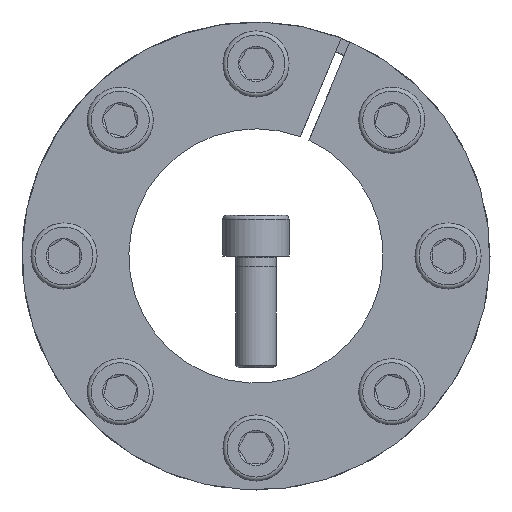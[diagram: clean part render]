
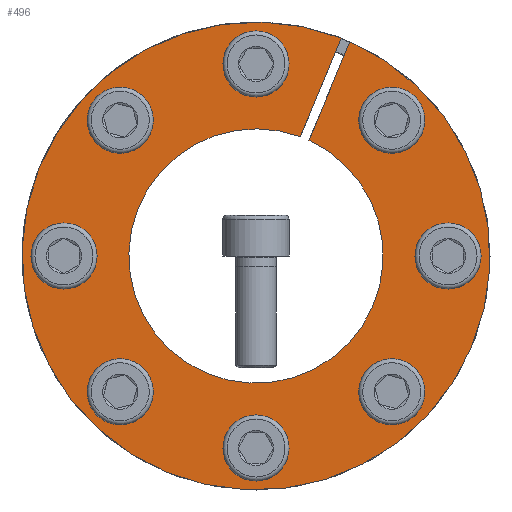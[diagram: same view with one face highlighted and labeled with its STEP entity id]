
A CAD part, front view. The second image highlights one B-rep face of the part: STEP entity #496.
In plain terms, the highlighted planar face has unit normal (0, -1, 0).
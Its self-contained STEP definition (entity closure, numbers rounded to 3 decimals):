
#496 = ADVANCED_FACE( '', ( #896, #897, #898, #899, #900, #901, #902, #903, #904 ), #905, .F. );
#896 = FACE_BOUND( '', #1468, .T. );
#897 = FACE_BOUND( '', #1469, .T. );
#898 = FACE_BOUND( '', #1470, .T. );
#899 = FACE_BOUND( '', #1471, .T. );
#900 = FACE_BOUND( '', #1472, .T. );
#901 = FACE_BOUND( '', #1473, .T. );
#902 = FACE_BOUND( '', #1474, .T. );
#903 = FACE_BOUND( '', #1475, .T. );
#904 = FACE_OUTER_BOUND( '', #1476, .T. );
#905 = PLANE( '', #1477 );
#1468 = EDGE_LOOP( '', ( #2149 ) );
#1469 = EDGE_LOOP( '', ( #2150 ) );
#1470 = EDGE_LOOP( '', ( #2151 ) );
#1471 = EDGE_LOOP( '', ( #2152 ) );
#1472 = EDGE_LOOP( '', ( #2153 ) );
#1473 = EDGE_LOOP( '', ( #2154 ) );
#1474 = EDGE_LOOP( '', ( #2155 ) );
#1475 = EDGE_LOOP( '', ( #2156 ) );
#1476 = EDGE_LOOP( '', ( #2157, #2158, #2159, #2160 ) );
#1477 = AXIS2_PLACEMENT_3D( '', #2161, #2162, #2163 );
#2149 = ORIENTED_EDGE( '', *, *, #3435, .T. );
#2150 = ORIENTED_EDGE( '', *, *, #3436, .T. );
#2151 = ORIENTED_EDGE( '', *, *, #3437, .T. );
#2152 = ORIENTED_EDGE( '', *, *, #3438, .T. );
#2153 = ORIENTED_EDGE( '', *, *, #3439, .T. );
#2154 = ORIENTED_EDGE( '', *, *, #3440, .T. );
#2155 = ORIENTED_EDGE( '', *, *, #3441, .T. );
#2156 = ORIENTED_EDGE( '', *, *, #3424, .T. );
#2157 = ORIENTED_EDGE( '', *, *, #3419, .T. );
#2158 = ORIENTED_EDGE( '', *, *, #3425, .T. );
#2159 = ORIENTED_EDGE( '', *, *, #3396, .T. );
#2160 = ORIENTED_EDGE( '', *, *, #3387, .F. );
#2161 = CARTESIAN_POINT( '', ( 0., 0., 46. ) );
#2162 = DIRECTION( '', ( 0., 1., 0. ) );
#2163 = DIRECTION( '', ( 0., 0., 1. ) );
#3387 = EDGE_CURVE( '', #3758, #3754, #3760, .T. );
#3396 = EDGE_CURVE( '', #3777, #3754, #3778, .T. );
#3419 = EDGE_CURVE( '', #3758, #3813, #3815, .T. );
#3424 = EDGE_CURVE( '', #3821, #3821, #3822, .T. );
#3425 = EDGE_CURVE( '', #3813, #3777, #3823, .T. );
#3435 = EDGE_CURVE( '', #3841, #3841, #3842, .T. );
#3436 = EDGE_CURVE( '', #3843, #3843, #3844, .T. );
#3437 = EDGE_CURVE( '', #3845, #3845, #3846, .T. );
#3438 = EDGE_CURVE( '', #3847, #3847, #3848, .T. );
#3439 = EDGE_CURVE( '', #3849, #3849, #3850, .T. );
#3440 = EDGE_CURVE( '', #3851, #3851, #3852, .T. );
#3441 = EDGE_CURVE( '', #3853, #3853, #3854, .T. );
#3754 = VERTEX_POINT( '', #4267 );
#3758 = VERTEX_POINT( '', #4272 );
#3760 = CIRCLE( '', #4275, 25. );
#3777 = VERTEX_POINT( '', #4300 );
#3778 = LINE( '', #4301, #4302 );
#3813 = VERTEX_POINT( '', #4366 );
#3815 = LINE( '', #4369, #4370 );
#3821 = VERTEX_POINT( '', #4376 );
#3822 = CIRCLE( '', #4377, 4. );
#3823 = CIRCLE( '', #4378, 46. );
#3841 = VERTEX_POINT( '', #4396 );
#3842 = CIRCLE( '', #4397, 4. );
#3843 = VERTEX_POINT( '', #4398 );
#3844 = CIRCLE( '', #4399, 4. );
#3845 = VERTEX_POINT( '', #4400 );
#3846 = CIRCLE( '', #4401, 4. );
#3847 = VERTEX_POINT( '', #4402 );
#3848 = CIRCLE( '', #4403, 4. );
#3849 = VERTEX_POINT( '', #4404 );
#3850 = CIRCLE( '', #4405, 4. );
#3851 = VERTEX_POINT( '', #4406 );
#3852 = CIRCLE( '', #4407, 4. );
#3853 = VERTEX_POINT( '', #4408 );
#3854 = CIRCLE( '', #4409, 4. );
#4267 = CARTESIAN_POINT( '', ( 10.418, 0., 22.726 ) );
#4272 = CARTESIAN_POINT( '', ( 8.703, 0., 23.436 ) );
#4275 = AXIS2_PLACEMENT_3D( '', #5232, #5233, #5234 );
#4300 = CARTESIAN_POINT( '', ( 18.458, 0., 42.134 ) );
#4301 = CARTESIAN_POINT( '', ( 18.461, 0., 42.143 ) );
#4302 = VECTOR( '', #5249, 1000. );
#4366 = CARTESIAN_POINT( '', ( 16.742, 0., 42.845 ) );
#4369 = CARTESIAN_POINT( '', ( 8.703, 0., 23.436 ) );
#4370 = VECTOR( '', #5274, 1000. );
#4376 = CARTESIAN_POINT( '', ( -23.865, 0., 29.522 ) );
#4377 = AXIS2_PLACEMENT_3D( '', #5287, #5288, #5289 );
#4378 = AXIS2_PLACEMENT_3D( '', #5290, #5291, #5292 );
#4396 = CARTESIAN_POINT( '', ( 4., 0., 37.75 ) );
#4397 = AXIS2_PLACEMENT_3D( '', #5320, #5321, #5322 );
#4398 = CARTESIAN_POINT( '', ( 29.522, 0., 23.865 ) );
#4399 = AXIS2_PLACEMENT_3D( '', #5323, #5324, #5325 );
#4400 = CARTESIAN_POINT( '', ( 37.75, 0., -4. ) );
#4401 = AXIS2_PLACEMENT_3D( '', #5326, #5327, #5328 );
#4402 = CARTESIAN_POINT( '', ( 23.865, 0., -29.522 ) );
#4403 = AXIS2_PLACEMENT_3D( '', #5329, #5330, #5331 );
#4404 = CARTESIAN_POINT( '', ( -4., 0., -37.75 ) );
#4405 = AXIS2_PLACEMENT_3D( '', #5332, #5333, #5334 );
#4406 = CARTESIAN_POINT( '', ( -29.522, 0., -23.865 ) );
#4407 = AXIS2_PLACEMENT_3D( '', #5335, #5336, #5337 );
#4408 = CARTESIAN_POINT( '', ( -37.75, 0., 4. ) );
#4409 = AXIS2_PLACEMENT_3D( '', #5338, #5339, #5340 );
#5232 = CARTESIAN_POINT( '', ( 0., 0., 0. ) );
#5233 = DIRECTION( '', ( 0., -1., 0. ) );
#5234 = DIRECTION( '', ( 0., 0., -1. ) );
#5249 = DIRECTION( '', ( -0.383, 0., -0.924 ) );
#5274 = DIRECTION( '', ( 0.383, 0., 0.924 ) );
#5287 = CARTESIAN_POINT( '', ( -26.693, 0., 26.693 ) );
#5288 = DIRECTION( '', ( 0., 1., 0. ) );
#5289 = DIRECTION( '', ( 0.707, 0., 0.707 ) );
#5290 = CARTESIAN_POINT( '', ( 0., 0., 0. ) );
#5291 = DIRECTION( '', ( 0., -1., 0. ) );
#5292 = DIRECTION( '', ( 0., 0., -1. ) );
#5320 = CARTESIAN_POINT( '', ( 0., 0., 37.75 ) );
#5321 = DIRECTION( '', ( 0., 1., 0. ) );
#5322 = DIRECTION( '', ( 1., 0., 0. ) );
#5323 = CARTESIAN_POINT( '', ( 26.693, 0., 26.693 ) );
#5324 = DIRECTION( '', ( 0., 1., 0. ) );
#5325 = DIRECTION( '', ( 0.707, 0., -0.707 ) );
#5326 = CARTESIAN_POINT( '', ( 37.75, 0., 0. ) );
#5327 = DIRECTION( '', ( 0., 1., 0. ) );
#5328 = DIRECTION( '', ( 0., 0., -1. ) );
#5329 = CARTESIAN_POINT( '', ( 26.693, 0., -26.693 ) );
#5330 = DIRECTION( '', ( 0., 1., 0. ) );
#5331 = DIRECTION( '', ( -0.707, 0., -0.707 ) );
#5332 = CARTESIAN_POINT( '', ( 0., 0., -37.75 ) );
#5333 = DIRECTION( '', ( 0., 1., 0. ) );
#5334 = DIRECTION( '', ( -1., 0., 0. ) );
#5335 = CARTESIAN_POINT( '', ( -26.693, 0., -26.693 ) );
#5336 = DIRECTION( '', ( 0., 1., 0. ) );
#5337 = DIRECTION( '', ( -0.707, 0., 0.707 ) );
#5338 = CARTESIAN_POINT( '', ( -37.75, 0., 0. ) );
#5339 = DIRECTION( '', ( 0., 1., 0. ) );
#5340 = DIRECTION( '', ( 0., 0., 1. ) );
